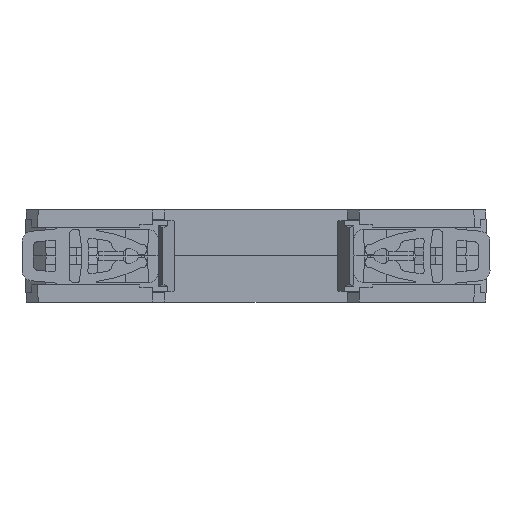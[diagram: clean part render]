
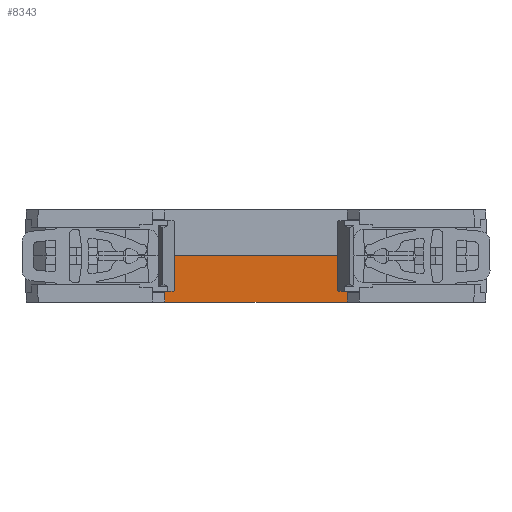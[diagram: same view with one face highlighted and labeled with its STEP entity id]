
A CAD part, front view. The second image highlights one B-rep face of the part: STEP entity #8343.
In plain terms, the highlighted planar face has unit normal (0, -1, -0.009).
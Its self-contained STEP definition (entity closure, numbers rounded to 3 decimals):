
#635=FACE_OUTER_BOUND('',#1103,.T.);
#1103=EDGE_LOOP('',(#6487,#6488,#6489,#6490));
#1834=LINE('',#12650,#2803);
#1889=LINE('',#12763,#2858);
#1933=LINE('',#12859,#2902);
#1935=LINE('',#12862,#2904);
#2803=VECTOR('',#10221,10.);
#2858=VECTOR('',#10296,1000.);
#2902=VECTOR('',#10374,10.);
#2904=VECTOR('',#10378,10.);
#3672=VERTEX_POINT('',#12647);
#3673=VERTEX_POINT('',#12649);
#3720=VERTEX_POINT('',#12760);
#3721=VERTEX_POINT('',#12762);
#4651=EDGE_CURVE('',#3673,#3672,#1834,.T.);
#4710=EDGE_CURVE('',#3720,#3721,#1889,.T.);
#4757=EDGE_CURVE('',#3672,#3721,#1933,.T.);
#4759=EDGE_CURVE('',#3673,#3720,#1935,.T.);
#6487=ORIENTED_EDGE('',*,*,#4710,.F.);
#6488=ORIENTED_EDGE('',*,*,#4759,.F.);
#6489=ORIENTED_EDGE('',*,*,#4651,.T.);
#6490=ORIENTED_EDGE('',*,*,#4757,.T.);
#7970=PLANE('',#8887);
#8343=ADVANCED_FACE('',(#635),#7970,.F.);
#8887=AXIS2_PLACEMENT_3D('',#12861,#10376,#10377);
#10221=DIRECTION('',(1.,0.,0.));
#10296=DIRECTION('',(1.,0.,0.));
#10374=DIRECTION('',(-0.009,-0.009,1.));
#10376=DIRECTION('center_axis',(0.,1.,0.009));
#10377=DIRECTION('ref_axis',(0.,-0.009,1.));
#10378=DIRECTION('',(0.009,-0.009,1.));
#12647=CARTESIAN_POINT('',(17.818,-0.206,-8.981));
#12649=CARTESIAN_POINT('',(-17.809,-0.206,-8.981));
#12650=CARTESIAN_POINT('',(0.004,-0.206,-8.981));
#12760=CARTESIAN_POINT('',(-17.731,-0.284,0.019));
#12762=CARTESIAN_POINT('',(17.739,-0.284,0.019));
#12763=CARTESIAN_POINT('',(0.004,-0.284,0.019));
#12859=CARTESIAN_POINT('',(17.738,-0.286,0.174));
#12861=CARTESIAN_POINT('Origin',(0.004,-0.284,
0.019));
#12862=CARTESIAN_POINT('',(-17.729,-0.286,0.174));
